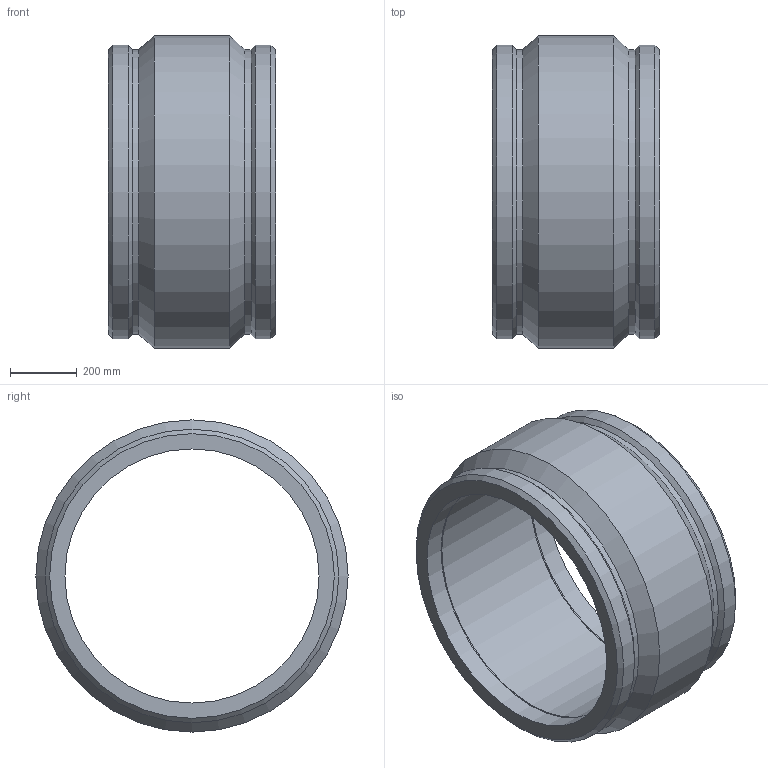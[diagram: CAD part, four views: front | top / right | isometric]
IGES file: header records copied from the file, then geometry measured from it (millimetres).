
Global section: file name: 5901B003300.ipt; native system: Autodesk Inventor 2019; preprocessor: unknown; author: KIM; date: 20210830.100903; units: inch
Bounding box: 500.13 x 931.93 x 931.93 mm (x, y, z)
Volume: 92932140.2 mm3; surface area: 2986541.5 mm2
Topology: 1 solids, 1 shells, 20 faces, 44 edges, 28 vertices
Faces by surface type: cone 6, cylinder 5, revolution 5, plane 4
Full cylindrical faces by diameter (mm): 849.73 x2, 876.01 x2, 931.926 x1
